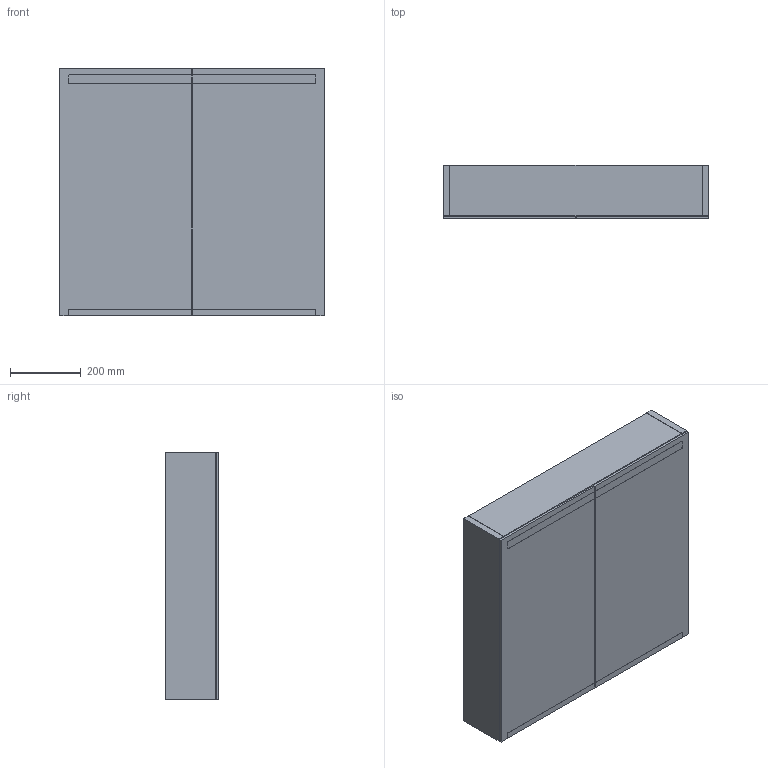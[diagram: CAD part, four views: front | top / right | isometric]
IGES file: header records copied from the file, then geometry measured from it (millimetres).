
Global section: file name: 500205; native system: Autodesk Inventor 2018; preprocessor: unknown; author: JANAN; date: 20200113.154355; units: millimetre
Bounding box: 750 x 150 x 700 mm (x, y, z)
Volume: 15368261 mm3; surface area: 3400068.5 mm2
Topology: 3 solids, 5 shells, 84 faces, 222 edges, 148 vertices
Faces by surface type: bspline 84
